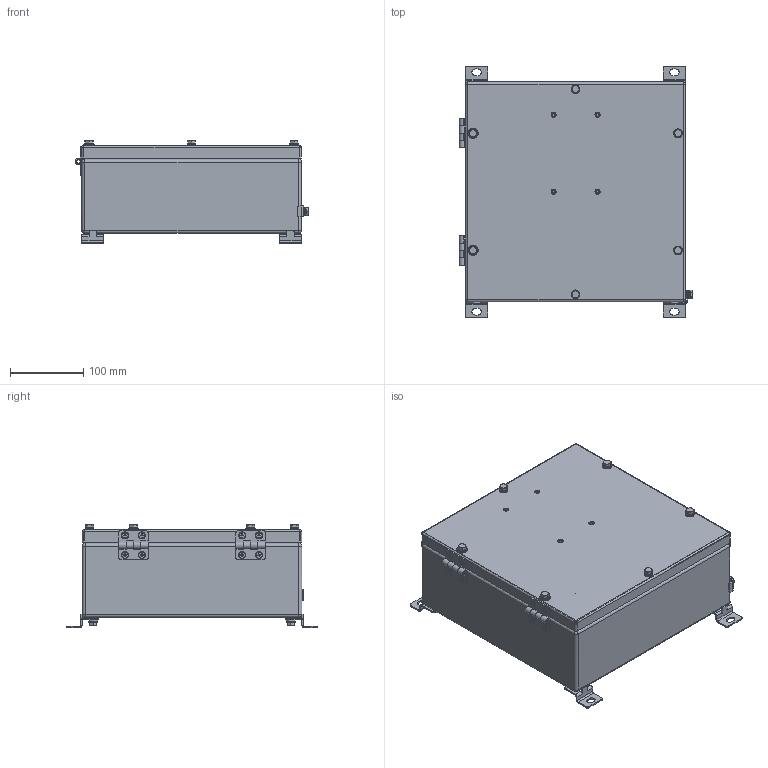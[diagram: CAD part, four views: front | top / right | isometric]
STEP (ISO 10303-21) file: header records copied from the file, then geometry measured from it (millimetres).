
FILE_DESCRIPTION((''),'2;1');
FILE_NAME('\\192.168.5.25\cortem_klient\INVENTOR БАЗА МОДЕЛЕЙ\Актуальная база моделей для отдела продаж\КСРВ-М\КСРВ-М303012_М3.stp','2019-04-09T14:39:05',('A.S.Kozlov'),(''),'Autodesk Inventor 2012','Autodesk Inventor 2012','');
FILE_SCHEMA(('CONFIG_CONTROL_DESIGN'));
Length unit declared in the file: millimetre
Products named in the file (1): КСРВ-(параметрическая модель)_Внешний контур_1
Bounding box: 319.19 x 344 x 141.2 mm (x, y, z)
Surface area: 468884 mm2 (no closed solid volume)
Topology: 0 solids, 91 shells, 363 faces, 1340 edges, 988 vertices
Faces by surface type: plane 204, cylinder 145, sphere 12, cone 2
Full cylindrical faces by diameter (mm): 5 x4, 5.9 x6, 10 x4, 12 x14, 14 x2
Entity records: 14729 total; most frequent: CARTESIAN_POINT 2825, DIRECTION 2440, ORIENTED_EDGE 1843, EDGE_CURVE 1293, VERTEX_POINT 976, AXIS2_PLACEMENT_3D 879, VECTOR 682, LINE 682
